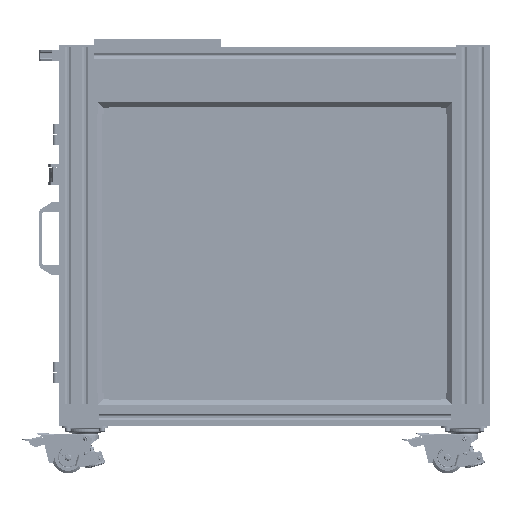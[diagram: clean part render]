
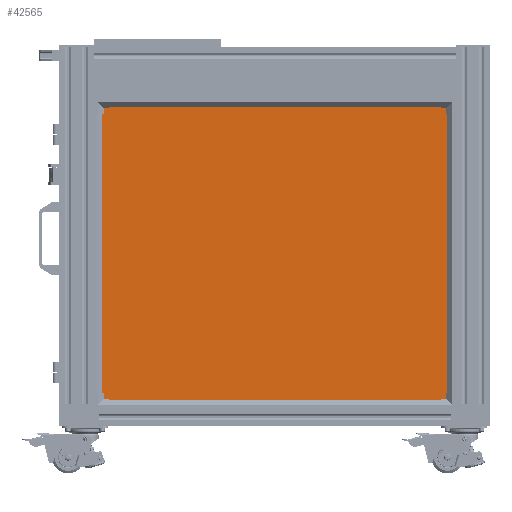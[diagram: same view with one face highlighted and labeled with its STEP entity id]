
A CAD part, front view. The second image highlights one B-rep face of the part: STEP entity #42565.
In plain terms, the highlighted planar face has unit normal (0, -1, 0) as drawn and (0, 0, -1) by its records, which use the part's own axes.
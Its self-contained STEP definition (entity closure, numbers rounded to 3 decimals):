
#42565=ADVANCED_FACE('',(#84183),#84184,.F.);
#84183=FACE_OUTER_BOUND('',#161294,.T.);
#84184=PLANE('',#161295);
#161294=EDGE_LOOP('',(#257860,#257861,#257862,#257863));
#161295=AXIS2_PLACEMENT_3D('',#257864,#257865,#257866);
#257860=ORIENTED_EDGE('',*,*,#326037,.F.);
#257861=ORIENTED_EDGE('',*,*,#326038,.F.);
#257862=ORIENTED_EDGE('',*,*,#326039,.F.);
#257863=ORIENTED_EDGE('',*,*,#326040,.F.);
#257864=CARTESIAN_POINT('',(241.071,277.195,0.));
#257865=DIRECTION('',(0.0,0.0,1.0));
#257866=DIRECTION('',(1.0,0.0,0.0));
#326037=EDGE_CURVE('',#384826,#384827,#384828,.T.);
#326038=EDGE_CURVE('',#384829,#384826,#384830,.T.);
#326039=EDGE_CURVE('',#384831,#384829,#384832,.T.);
#326040=EDGE_CURVE('',#384827,#384831,#384833,.T.);
#384826=VERTEX_POINT('',#526931);
#384827=VERTEX_POINT('',#526932);
#384828=LINE('',#526933,#526934);
#384829=VERTEX_POINT('',#526935);
#384830=LINE('',#526936,#526937);
#384831=VERTEX_POINT('',#526938);
#384832=LINE('',#526939,#526940);
#384833=LINE('',#526941,#526942);
#526931=CARTESIAN_POINT('',(-176.429,-79.5,0.));
#526932=CARTESIAN_POINT('',(658.571,-79.5,0.));
#526933=CARTESIAN_POINT('',(-176.429,-79.5,0.));
#526934=VECTOR('',#582269,1.0);
#526935=CARTESIAN_POINT('',(-176.429,633.891,0.));
#526936=CARTESIAN_POINT('',(-176.429,633.891,0.));
#526937=VECTOR('',#582270,1.0);
#526938=CARTESIAN_POINT('',(658.571,633.891,0.));
#526939=CARTESIAN_POINT('',(658.571,633.891,0.));
#526940=VECTOR('',#582271,1.0);
#526941=CARTESIAN_POINT('',(658.571,-79.5,0.));
#526942=VECTOR('',#582272,1.0);
#582269=DIRECTION('',(1.0,0.0,0.0));
#582270=DIRECTION('',(0.0,-1.0,0.0));
#582271=DIRECTION('',(-1.0,0.0,0.0));
#582272=DIRECTION('',(0.0,1.0,0.0));
